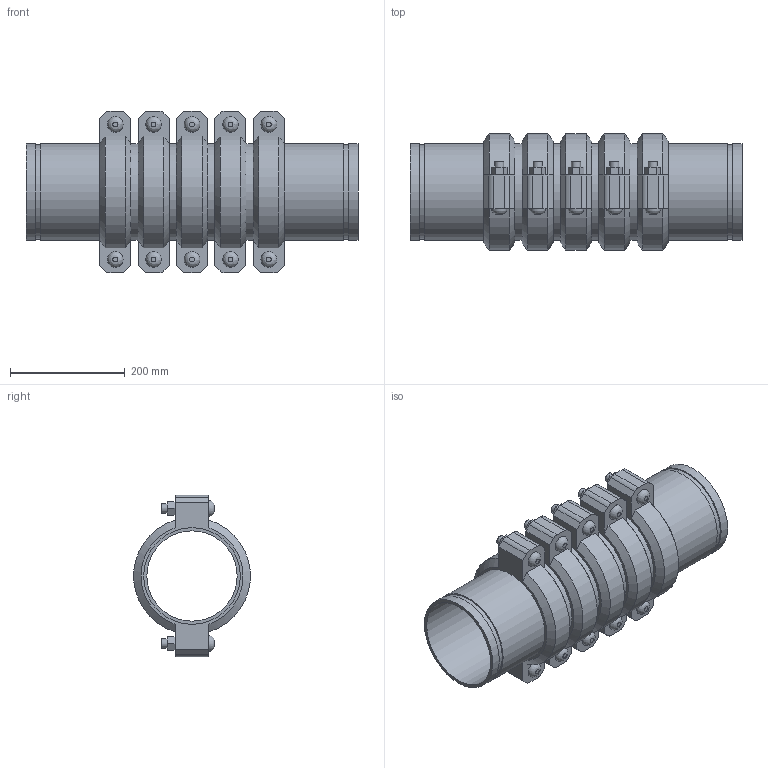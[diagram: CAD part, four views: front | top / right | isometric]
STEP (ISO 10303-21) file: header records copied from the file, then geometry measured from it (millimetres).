
FILE_DESCRIPTION(/* description */ ('VIC EXPANSION JOINT 5 COUPLINGS EXPANDED STYLE 155 (OGS)','CAx-IF Rec.Pracs.---Representation and Presentation of Product Manufacturing Information (PMI)---4.0---2014-10-13'),/* implementation_level */ '2;1');
FILE_NAME(/* name */ 'C:\Users\kkamble\AppData\Roaming\Autodesk\ApplicationPlugins\Victaulic.Temp\A557\Victaulic_IPS_Expansion Joint_Expanded_5 Couplings_Style 155 (OGS)_6 (150).stp',/* time_stamp */ '2021-06-27T00:02:54+02:00',/* author */ ('kkamble'),/* organization */ ('Victaulic'),/* preprocessor_version */ 'ST-DEVELOPER v17.2',/* originating_system */ 'Autodesk Inventor 2019',/* authorisation */ '');
FILE_SCHEMA (('AP242_MANAGED_MODEL_BASED_3D_ENGINEERING_MIM_LF { 1 0 10303 442 1 1 4 }'));
Length unit declared in the file: inch
Products named in the file (4): 155-06.0; Nipple-06.0; Nipple-06.0_1; 075-06.0
Assembly tree (11 placements, depth 2):
  155-06.0
    Nipple-06.0  x2
    Nipple-06.0_1  x4
    075-06.0  x5
Bounding box: 577.6 x 202.46 x 281.18 mm (x, y, z)
Volume: 5241866.9 mm3; surface area: 1199210.3 mm2
Topology: 11 solids, 21 shells, 357 faces, 845 edges, 594 vertices
Faces by surface type: plane 216, cylinder 111, cone 20, bspline 10
Full cylindrical faces by diameter (mm): 15.875 x20, 17.424 x10, 157.15 x6, 161.925 x5, 163.957 x12, 168.275 x28
Entity records: 2801 total; most frequent: CARTESIAN_POINT 495, DIRECTION 465, ORIENTED_EDGE 386, EDGE_CURVE 193, AXIS2_PLACEMENT_3D 186, VERTEX_POINT 138, EDGE_LOOP 107, LINE 93
